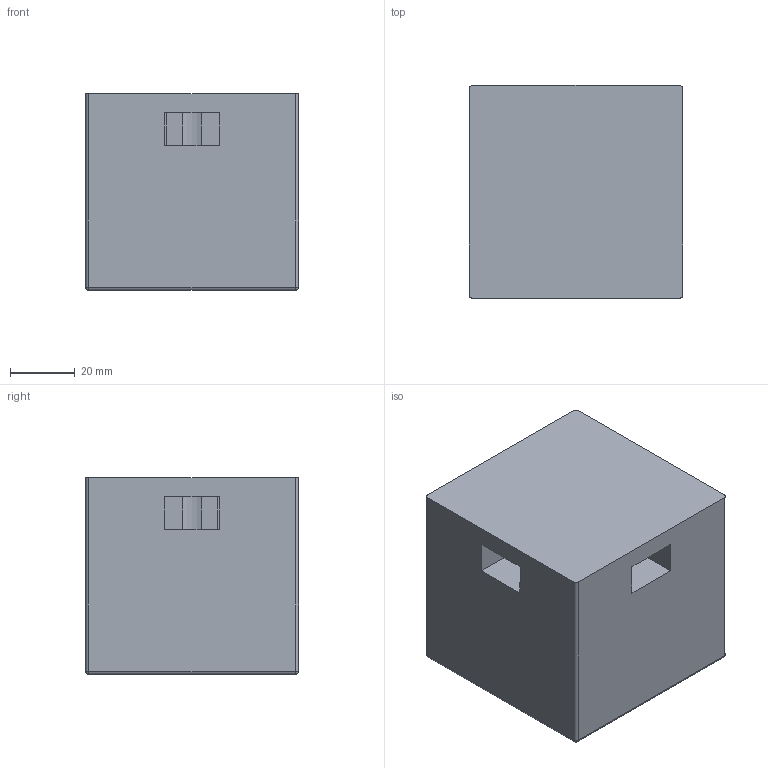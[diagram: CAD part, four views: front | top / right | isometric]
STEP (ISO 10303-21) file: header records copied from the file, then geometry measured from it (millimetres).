
FILE_DESCRIPTION(('STEP AP203'), '1');
FILE_NAME('lamp', '', ('UNSPECIFIED'), ('UNSPECIFIED'), 'ASCON STEP Converter 1.3', 'ASCON Math Kernel', '');
FILE_SCHEMA(('CONFIG_CONTROL_DESIGN'));
Length unit declared in the file: millimetre
Bounding box: 66 x 66 x 61 mm (x, y, z)
Volume: 153576.5 mm3; surface area: 33503.9 mm2
Topology: 1 solids, 1 shells, 34 faces, 89 edges, 51 vertices
Faces by surface type: plane 18, cylinder 10, sphere 4, torus 1, cone 1
Entity records: 1318 total; most frequent: DIRECTION 180, CARTESIAN_POINT 169, ORIENTED_EDGE 166, EDGE_CURVE 83, AXIS2_PLACEMENT_3D 62, LINE 56, VECTOR 56, VERTEX_POINT 51
